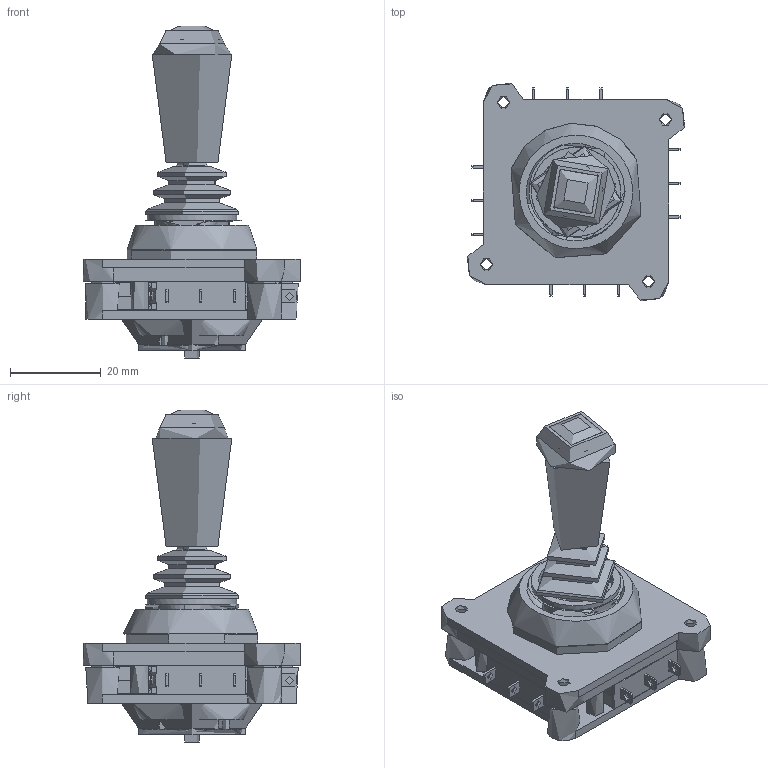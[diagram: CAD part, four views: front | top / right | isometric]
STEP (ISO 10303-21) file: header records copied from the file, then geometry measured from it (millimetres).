
FILE_DESCRIPTION( ( 'Unknown' ), '1' );
FILE_NAME( 'S:/Joysticks/OCS/Engineering/Library/1000/STP/1D16J1500.stp', 'Unknown', ( 'Unknown' ), ( 'Unknown' ), 'PSStep 15.0.49', 'Unknown', ' ' );
FILE_SCHEMA( ( 'AUTOMOTIVE_DESIGN { 1 0 10303 214 1 1 1 1 }' ) );
Length unit declared in the file: millimetre
Products named in the file (21): 011; sw; sw1; Assem1; 110004-01 V4 Striker; 1000 Series Sprung Bearing Sleeve; 3000 starlock; 3000 starlock-oa0; 110003-01 Lower Body Moulding (Screw Mount); 110008-01 Moulded Nut Mk2; 110002 Upper Body Moulding (Bush Mount); J KNOB; 110024 Bush Mount Gaitor; 110016; MBZ1 03B01C12B01
Assembly tree (23 placements, depth 3):
  Assem1
    110004-01 V4 Striker
    1000 Series Sprung Bearing Sleeve
    1000 Series Sprung Bearing Sleeve
    1000 Series Sprung Bearing Sleeve
    1000 Series Sprung Bearing Sleeve
    1000 Series Sprung Bearing Sleeve
    1000 Series Sprung Bearing Sleeve
    1000 Series Sprung Bearing Sleeve
    3000 starlock
    3000 starlock-oa0
    110003-01 Lower Body Moulding (Screw Mount)
    110008-01 Moulded Nut Mk2
    110002 Upper Body Moulding (Bush Mount)
    J KNOB
    110024 Bush Mount Gaitor
    110016
    MBZ1 03B01C12B01  x4
    011
      sw
      sw1
Bounding box: 48.06 x 48.06 x 73.38 mm (x, y, z)
Topology: 22 solids, 22 shells, 2184 faces, 5718 edges, 3743 vertices
Faces by surface type: plane 1402, cylinder 513, bspline 104, extrusion 76, torus 55, cone 21, sphere 13
Full cylindrical faces by diameter (mm): 1.439 x1, 1.526 x1, 1.7 x8, 1.75 x8, 1.8 x12, 1.95 x4, 2 x20, 2.2 x4, 2.22 x4, 2.3 x12, 2.5 x5, 2.8 x8, 3.02 x1, 3.84 x1, 4 x6, 4.8 x1, 4.95 x4, 5.02 x1, 5.1 x4, 6 x5, 6.5 x2, 6.55 x1, 6.8 x1, 7.38 x4, 7.5 x1, 8 x1, 8.7 x1, 9 x1, 10.8 x2, 11.45 x2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
Entity records: 41418 total; most frequent: CARTESIAN_POINT 14644, ORIENTED_EDGE 3948, DIRECTION 3832, EDGE_CURVE 1974, VERTEX_POINT 1386, AXIS2_PLACEMENT_3D 1290, VECTOR 1252, LINE 1233
